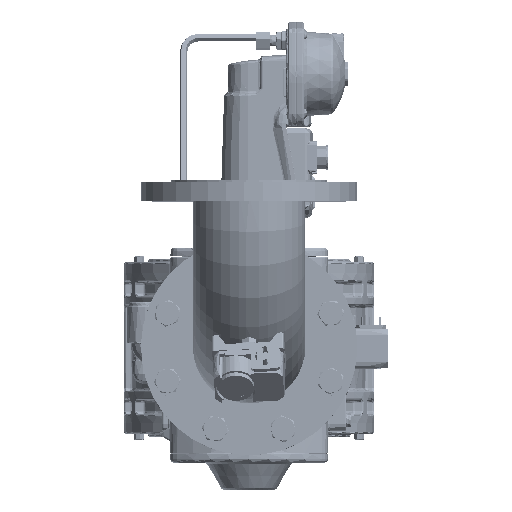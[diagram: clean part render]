
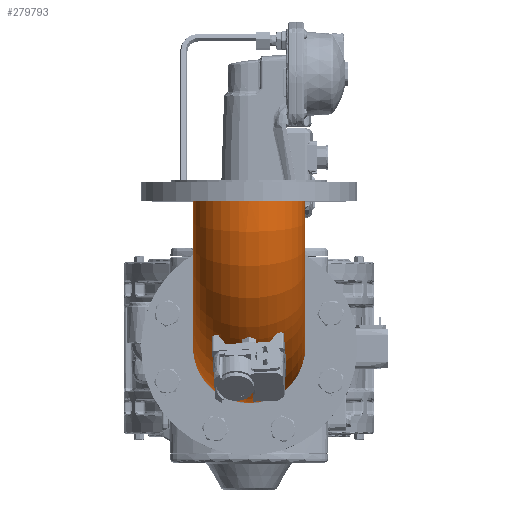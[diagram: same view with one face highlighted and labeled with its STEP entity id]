
A CAD part, top view. The second image highlights one B-rep face of the part: STEP entity #279793.
In plain terms, the highlighted toroidal (fillet/blend) face has major radius 152.5 mm and minor radius 57.15 mm.
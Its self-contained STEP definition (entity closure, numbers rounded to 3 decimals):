
#8398 = CARTESIAN_POINT ( 'NONE',  ( -2.603, -3.654, 146.407 ) ) ;
#10171 = CARTESIAN_POINT ( 'NONE',  ( -4.186, 4.401, 147.935 ) ) ;
#11973 = CARTESIAN_POINT ( 'NONE',  ( -1.277, -1.12, 145.191 ) ) ;
#13739 = CARTESIAN_POINT ( 'NONE',  ( -1.169, 0.024, 145.095 ) ) ;
#17306 = CARTESIAN_POINT ( 'NONE',  ( -1.977, -2.887, 145.827 ) ) ;
#19123 = CARTESIAN_POINT ( 'NONE',  ( -1.977, -2.887, 145.827 ) ) ;
#31953 = CARTESIAN_POINT ( 'NONE',  ( -7.352, 0.838, 151.271 ) ) ;
#32011 = VERTEX_POINT ( 'NONE', #352562 ) ;
#33747 = CARTESIAN_POINT ( 'NONE',  ( -7.308, 1.122, 151.222 ) ) ;
#40496 = CIRCLE ( 'NONE', #179079, 57.15 ) ;
#40856 = CARTESIAN_POINT ( 'NONE',  ( -6.093, 3.654, 149.897 ) ) ;
#44457 = CARTESIAN_POINT ( 'NONE',  ( -5.384, 4.168, 149.152 ) ) ;
#45722 = CARTESIAN_POINT ( 'NONE',  ( -152.5, 0., 152.5 ) ) ;
#54841 = ORIENTED_EDGE ( 'NONE', *, *, #106800, .T. ) ;
#66220 = CARTESIAN_POINT ( 'NONE',  ( -3.579, 4.265, 147.339 ) ) ;
#69777 = CARTESIAN_POINT ( 'NONE',  ( -1.413, -1.664, 145.313 ) ) ;
#73357 = CARTESIAN_POINT ( 'NONE',  ( -1.617, 2.224, 145.498 ) ) ;
#81935 = CARTESIAN_POINT ( 'NONE',  ( -152.5, 0., 95.35 ) ) ;
#84486 = CARTESIAN_POINT ( 'NONE',  ( -6.23, -3.51, 150.044 ) ) ;
#86251 = CARTESIAN_POINT ( 'NONE',  ( -7.245, -1.435, 151.152 ) ) ;
#88019 = CARTESIAN_POINT ( 'NONE',  ( -3.749, -4.32, 147.505 ) ) ;
#89787 = CARTESIAN_POINT ( 'NONE',  ( -6.525, -3.134, 150.362 ) ) ;
#93279 = DIRECTION ( 'NONE',  ( 0., 1., 0. ) ) ;
#95121 = CARTESIAN_POINT ( 'NONE',  ( -7.107, 1.931, 150.999 ) ) ;
#96901 = CARTESIAN_POINT ( 'NONE',  ( -3.185, 4.083, 146.96 ) ) ;
#98734 = CARTESIAN_POINT ( 'NONE',  ( -1.35, 1.44, 145.256 ) ) ;
#100518 = CARTESIAN_POINT ( 'NONE',  ( -2.138, 3.133, 145.974 ) ) ;
#106305 = AXIS2_PLACEMENT_3D ( 'NONE', #228859, #93279, #261293 ) ;
#106800 = EDGE_CURVE ( 'NONE', #261363, #261363, #328721, .T. ) ;
#107265 = EDGE_LOOP ( 'NONE', ( #284885 ) ) ;
#111633 = CARTESIAN_POINT ( 'NONE',  ( -5.542, -4.082, 149.316 ) ) ;
#113399 = CARTESIAN_POINT ( 'NONE',  ( -6.899, -2.466, 150.77 ) ) ;
#118731 = CARTESIAN_POINT ( 'NONE',  ( -2.783, -3.81, 146.577 ) ) ;
#120496 = CARTESIAN_POINT ( 'NONE',  ( -1.237, 0.886, 145.155 ) ) ;
#124070 = CARTESIAN_POINT ( 'NONE',  ( -1.5, -1.928, 145.392 ) ) ;
#124967 = AXIS2_PLACEMENT_3D ( 'NONE', #186829, #125517, #297030 ) ;
#125517 = DIRECTION ( 'NONE',  ( 0., 0., 1. ) ) ;
#127666 = CARTESIAN_POINT ( 'NONE',  ( -6.916, 2.43, 150.788 ) ) ;
#140515 = CARTESIAN_POINT ( 'NONE',  ( -2.118, -3.106, 145.956 ) ) ;
#142277 = CARTESIAN_POINT ( 'NONE',  ( -4.361, -4.409, 148.111 ) ) ;
#147628 = CARTESIAN_POINT ( 'NONE',  ( -4.967, -4.329, 148.722 ) ) ;
#149401 = CARTESIAN_POINT ( 'NONE',  ( -1.2, 0.597, 145.122 ) ) ;
#151197 = CARTESIAN_POINT ( 'NONE',  ( -4.393, 4.409, 148.142 ) ) ;
#154734 = CARTESIAN_POINT ( 'NONE',  ( -2.459, 3.513, 146.273 ) ) ;
#162440 = EDGE_LOOP ( 'NONE', ( #54841 ) ) ;
#171140 = CARTESIAN_POINT ( 'NONE',  ( -6.07, -3.676, 149.873 ) ) ;
#176448 = CARTESIAN_POINT ( 'NONE',  ( -6.405, 3.3, 150.232 ) ) ;
#179079 = AXIS2_PLACEMENT_3D ( 'NONE', #45722, #289721, #266203 ) ;
#180032 = CARTESIAN_POINT ( 'NONE',  ( -1.713, -2.432, 145.585 ) ) ;
#181833 = CARTESIAN_POINT ( 'NONE',  ( -1.229, -0.837, 145.148 ) ) ;
#184285 = EDGE_LOOP ( 'NONE', ( #330157 ) ) ;
#186829 = CARTESIAN_POINT ( 'NONE',  ( 0., 0., 0. ) ) ;
#196484 = CARTESIAN_POINT ( 'NONE',  ( -7.346, -0.882, 151.264 ) ) ;
#207124 = CARTESIAN_POINT ( 'NONE',  ( -1.426, 1.708, 145.325 ) ) ;
#209517 = EDGE_CURVE ( 'NONE', #329496, #329496, #40496, .T. ) ;
#223603 = CARTESIAN_POINT ( 'NONE',  ( -7.002, -2.224, 150.883 ) ) ;
#225382 = CARTESIAN_POINT ( 'NONE',  ( -2.271, -3.303, 146.098 ) ) ;
#227155 = CARTESIAN_POINT ( 'NONE',  ( -3.955, -4.369, 147.707 ) ) ;
#228859 = CARTESIAN_POINT ( 'NONE',  ( -152.5, 0., 0. ) ) ;
#230722 = CARTESIAN_POINT ( 'NONE',  ( -3.779, 4.329, 147.534 ) ) ;
#234267 = CARTESIAN_POINT ( 'NONE',  ( -4.796, 4.369, 148.548 ) ) ;
#250685 = CARTESIAN_POINT ( 'NONE',  ( -6.662, -2.921, 150.51 ) ) ;
#254231 = CARTESIAN_POINT ( 'NONE',  ( -7.186, 1.669, 151.086 ) ) ;
#257720 = FACE_OUTER_BOUND ( 'NONE', #107265, .T. ) ;
#257794 = CARTESIAN_POINT ( 'NONE',  ( -1.175, -0.263, 145.1 ) ) ;
#259570 = CARTESIAN_POINT ( 'NONE',  ( -5.924, 3.809, 149.718 ) ) ;
#261293 = DIRECTION ( 'NONE',  ( 0., 0., 1. ) ) ;
#261359 = CARTESIAN_POINT ( 'NONE',  ( -1.733, 2.471, 145.603 ) ) ;
#261363 = VERTEX_POINT ( 'NONE', #19123 ) ;
#263138 = CARTESIAN_POINT ( 'NONE',  ( -5.571, 4.065, 149.347 ) ) ;
#264370 = EDGE_CURVE ( 'NONE', #32011, #32011, #315247, .T. ) ;
#264922 = CARTESIAN_POINT ( 'NONE',  ( -1.837, -2.668, 145.698 ) ) ;
#266203 = DIRECTION ( 'NONE',  ( 0., 0., -1. ) ) ;
#279574 = CARTESIAN_POINT ( 'NONE',  ( -7.4, 0.269, 151.324 ) ) ;
#279793 = ADVANCED_FACE ( 'NONE', ( #313708, #339048, #257720 ), #325502, .T. ) ;
#281342 = CARTESIAN_POINT ( 'NONE',  ( -5.725, -3.964, 149.508 ) ) ;
#284885 = ORIENTED_EDGE ( 'NONE', *, *, #264370, .T. ) ;
#284907 = CARTESIAN_POINT ( 'NONE',  ( -4.564, -4.401, 148.314 ) ) ;
#289721 = DIRECTION ( 'NONE',  ( -1., 0., 0. ) ) ;
#292029 = CARTESIAN_POINT ( 'NONE',  ( -2.992, 3.963, 146.775 ) ) ;
#297030 = DIRECTION ( 'NONE',  ( -1., 0., 0. ) ) ;
#304920 = CARTESIAN_POINT ( 'NONE',  ( -3.157, -4.067, 146.933 ) ) ;
#306695 = CARTESIAN_POINT ( 'NONE',  ( -7.405, -0.019, 151.331 ) ) ;
#310231 = CARTESIAN_POINT ( 'NONE',  ( -1.977, -2.887, 145.827 ) ) ;
#313708 = FACE_BOUND ( 'NONE', #162440, .T. ) ;
#313779 = CARTESIAN_POINT ( 'NONE',  ( -2.63, 3.679, 146.433 ) ) ;
#315247 = CIRCLE ( 'NONE', #124967, 57.15 ) ;
#317356 = CARTESIAN_POINT ( 'NONE',  ( -1.992, 2.924, 145.84 ) ) ;
#319163 = CARTESIAN_POINT ( 'NONE',  ( -4.994, 4.321, 148.75 ) ) ;
#320926 = CARTESIAN_POINT ( 'NONE',  ( -6.801, 2.669, 150.662 ) ) ;
#325502 = TOROIDAL_SURFACE ( 'NONE', #106305, 152.5, 57.15 ) ;
#328721 = B_SPLINE_CURVE_WITH_KNOTS ( 'NONE', 3,
 ( #310231, #140515, #225382, #8398, #118731, #304920, #339111, #88019, #227155, #142277, #284907, #147628, #337347, #111633, #281342, #171140, #84486, #89787, #250685, #113399, #223603, #333782, #86251, #196484, #335572, #306695, #279574, #31953, #33747, #254231, #95121, #127666, #320926, #348059, #176448, #40856, #259570, #263138, #44457, #319163, #234267, #151197, #10171, #230722, #66220, #96901, #292029, #313779, #154734, #100518, #317356, #261359, #73357, #207124, #98734, #120496, #149401, #13739, #257794, #181833, #11973, #69777, #124070, #180032, #264922, #17306 ),
 .UNSPECIFIED., .T., .F.,
 ( 4, 2, 2, 2, 2, 2, 2, 2, 2, 2, 2, 2, 2, 2, 2, 2, 2, 2, 2, 2, 2, 2, 2, 2, 2, 2, 2, 2, 2, 2, 2, 2, 4 ),
 ( 0., 0.001, 0.002, 0.003, 0.003, 0.004, 0.005, 0.006, 0.007, 0.008, 0.009, 0.009, 0.01, 0.011, 0.012, 0.013, 0.014, 0.015, 0.015, 0.016, 0.017, 0.018, 0.019, 0.02, 0.021, 0.021, 0.022, 0.023, 0.024, 0.025, 0.026, 0.027, 0.028 ),
 .UNSPECIFIED. ) ;
#329496 = VERTEX_POINT ( 'NONE', #81935 ) ;
#330157 = ORIENTED_EDGE ( 'NONE', *, *, #209517, .F. ) ;
#333782 = CARTESIAN_POINT ( 'NONE',  ( -7.175, -1.708, 151.074 ) ) ;
#335572 = CARTESIAN_POINT ( 'NONE',  ( -7.378, -0.599, 151.3 ) ) ;
#337347 = CARTESIAN_POINT ( 'NONE',  ( -5.164, -4.264, 148.925 ) ) ;
#339048 = FACE_OUTER_BOUND ( 'NONE', #184285, .T. ) ;
#339111 = CARTESIAN_POINT ( 'NONE',  ( -3.35, -4.169, 147.118 ) ) ;
#348059 = CARTESIAN_POINT ( 'NONE',  ( -6.546, 3.103, 150.385 ) ) ;
#352562 = CARTESIAN_POINT ( 'NONE',  ( -57.15, 0., 0. ) ) ;
